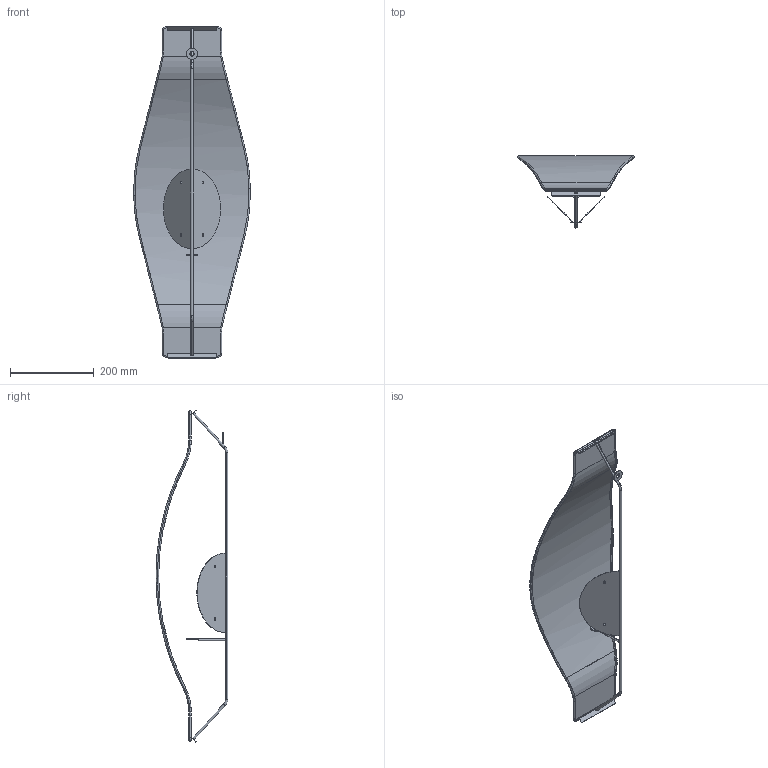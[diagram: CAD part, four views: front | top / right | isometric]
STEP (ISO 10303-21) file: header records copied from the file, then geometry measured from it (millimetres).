
FILE_DESCRIPTION (( 'STEP AP214' ), '1' );
FILE_NAME ('Stella Textil.STEP', '2023-10-17T13:04:43', ( '' ), ( '' ), 'SwSTEP 2.0', 'SolidWorks 2018', '' );
FILE_SCHEMA (( 'AUTOMOTIVE_DESIGN' ));
Length unit declared in the file: millimetre
Products named in the file (3): ställning_Default<As Machined>; skärm textil; Stella Textil
Assembly tree (2 placements, depth 2):
  Stella Textil
    ställning_Default<As Machined>
    skärm textil
Bounding box: 278.94 x 171.87 x 794.36 mm (x, y, z)
Volume: 243896.5 mm3; surface area: 446479.2 mm2
Topology: 8 solids, 8 shells, 249 faces, 533 edges, 300 vertices
Faces by surface type: cylinder 87, bspline 70, plane 56, torus 36
Entity records: 8805 total; most frequent: CARTESIAN_POINT 3607, ORIENTED_EDGE 1066, DIRECTION 1063, EDGE_CURVE 533, AXIS2_PLACEMENT_3D 448, VERTEX_POINT 300, CIRCLE 264, EDGE_LOOP 261
